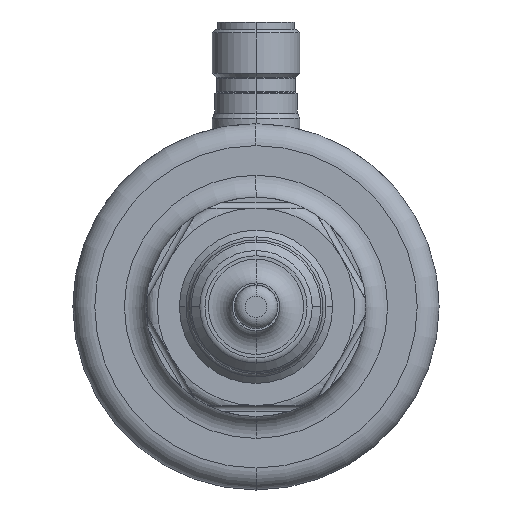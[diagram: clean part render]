
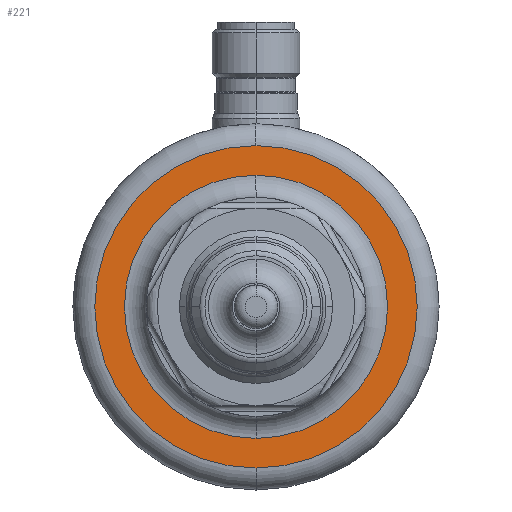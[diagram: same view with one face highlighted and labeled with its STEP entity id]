
A CAD part, front view. The second image highlights one B-rep face of the part: STEP entity #221.
In plain terms, the highlighted planar face has unit normal (0, -1, 0).
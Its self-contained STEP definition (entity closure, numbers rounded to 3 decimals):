
#221 = ADVANCED_FACE( '', ( #529, #530 ), #531, .T. );
#529 = FACE_OUTER_BOUND( '', #845, .T. );
#530 = FACE_BOUND( '', #846, .T. );
#531 = PLANE( '', #847 );
#845 = EDGE_LOOP( '', ( #2055, #2056, #2057 ) );
#846 = EDGE_LOOP( '', ( #2058, #2059, #2060 ) );
#847 = AXIS2_PLACEMENT_3D( '', #2061, #2062, #2063 );
#2055 = ORIENTED_EDGE( '', *, *, #2149, .F. );
#2056 = ORIENTED_EDGE( '', *, *, #2148, .F. );
#2057 = ORIENTED_EDGE( '', *, *, #2517, .F. );
#2058 = ORIENTED_EDGE( '', *, *, #2515, .T. );
#2059 = ORIENTED_EDGE( '', *, *, #2156, .T. );
#2060 = ORIENTED_EDGE( '', *, *, #2516, .T. );
#2061 = CARTESIAN_POINT( '', ( 20.025, 53.5, 0. ) );
#2062 = DIRECTION( '', ( 0., -1., 0. ) );
#2063 = DIRECTION( '', ( -1., 0., 0. ) );
#2148 = EDGE_CURVE( '', #2575, #2578, #2579, .T. );
#2149 = EDGE_CURVE( '', #2578, #2580, #2581, .T. );
#2156 = EDGE_CURVE( '', #2585, #2591, #2593, .T. );
#2515 = EDGE_CURVE( '', #3180, #2585, #3181, .T. );
#2516 = EDGE_CURVE( '', #2591, #3180, #3182, .T. );
#2517 = EDGE_CURVE( '', #2580, #2575, #3183, .T. );
#2575 = VERTEX_POINT( '', #3313 );
#2578 = VERTEX_POINT( '', #3316 );
#2579 = CIRCLE( '', #3317, 22.05 );
#2580 = VERTEX_POINT( '', #3318 );
#2581 = CIRCLE( '', #3319, 22.05 );
#2585 = VERTEX_POINT( '', #3323 );
#2591 = VERTEX_POINT( '', #3329 );
#2593 = CIRCLE( '', #3331, 18. );
#3180 = VERTEX_POINT( '', #4666 );
#3181 = CIRCLE( '', #4667, 18. );
#3182 = CIRCLE( '', #4668, 18. );
#3183 = CIRCLE( '', #4669, 22.05 );
#3313 = CARTESIAN_POINT( '', ( 0., 53.5, 22.05 ) );
#3316 = CARTESIAN_POINT( '', ( 22.05, 53.5, 0. ) );
#3317 = AXIS2_PLACEMENT_3D( '', #4726, #4727, #4728 );
#3318 = CARTESIAN_POINT( '', ( 0., 53.5, -22.05 ) );
#3319 = AXIS2_PLACEMENT_3D( '', #4729, #4730, #4731 );
#3323 = CARTESIAN_POINT( '', ( 0., 53.5, -18. ) );
#3329 = CARTESIAN_POINT( '', ( 0., 53.5, 18. ) );
#3331 = AXIS2_PLACEMENT_3D( '', #4750, #4751, #4752 );
#4666 = CARTESIAN_POINT( '', ( 18., 53.5, 0. ) );
#4667 = AXIS2_PLACEMENT_3D( '', #5430, #5431, #5432 );
#4668 = AXIS2_PLACEMENT_3D( '', #5433, #5434, #5435 );
#4669 = AXIS2_PLACEMENT_3D( '', #5436, #5437, #5438 );
#4726 = CARTESIAN_POINT( '', ( 0., 53.5, 0. ) );
#4727 = DIRECTION( '', ( 0., 1., 0. ) );
#4728 = DIRECTION( '', ( 1., 0., 0. ) );
#4729 = CARTESIAN_POINT( '', ( 0., 53.5, 0. ) );
#4730 = DIRECTION( '', ( 0., 1., 0. ) );
#4731 = DIRECTION( '', ( 1., 0., 0. ) );
#4750 = CARTESIAN_POINT( '', ( 0., 53.5, 0. ) );
#4751 = DIRECTION( '', ( 0., 1., 0. ) );
#4752 = DIRECTION( '', ( 1., 0., 0. ) );
#5430 = CARTESIAN_POINT( '', ( 0., 53.5, 0. ) );
#5431 = DIRECTION( '', ( 0., 1., 0. ) );
#5432 = DIRECTION( '', ( 1., 0., 0. ) );
#5433 = CARTESIAN_POINT( '', ( 0., 53.5, 0. ) );
#5434 = DIRECTION( '', ( 0., 1., 0. ) );
#5435 = DIRECTION( '', ( 1., 0., 0. ) );
#5436 = CARTESIAN_POINT( '', ( 0., 53.5, 0. ) );
#5437 = DIRECTION( '', ( 0., 1., 0. ) );
#5438 = DIRECTION( '', ( 1., 0., 0. ) );
